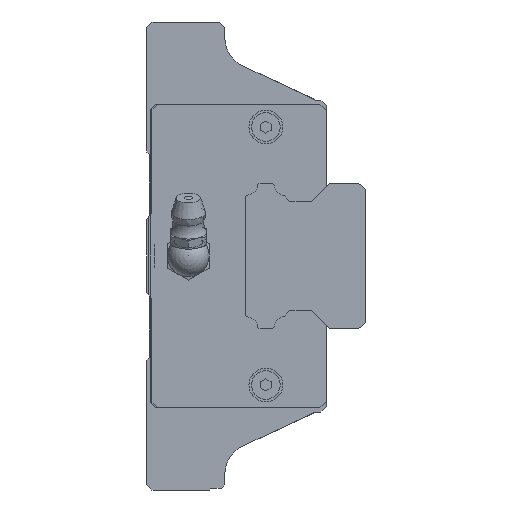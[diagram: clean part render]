
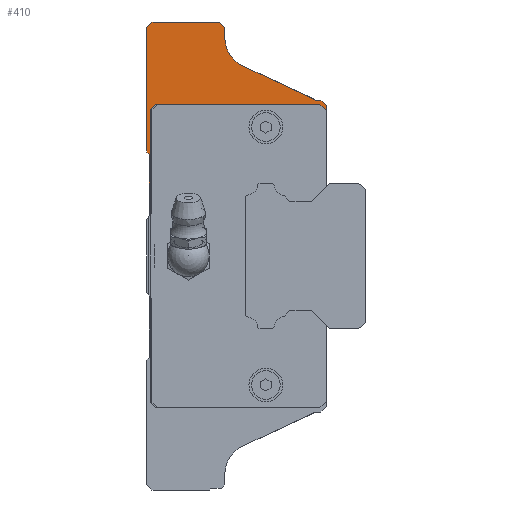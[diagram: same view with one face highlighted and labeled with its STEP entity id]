
A CAD part, left-side view. The second image highlights one B-rep face of the part: STEP entity #410.
In plain terms, the highlighted planar face has unit normal (-1, 0, 0).
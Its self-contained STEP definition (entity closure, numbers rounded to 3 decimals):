
#410 = ADVANCED_FACE( '', ( #901 ), #902, .F. );
#901 = FACE_OUTER_BOUND( '', #1639, .T. );
#902 = PLANE( '', #1640 );
#1639 = EDGE_LOOP( '', ( #2942, #2943, #2944, #2945, #2946, #2947, #2948, #2949, #2950, #2951, #2952, #2953, #2954, #2955, #2956, #2957, #2958 ) );
#1640 = AXIS2_PLACEMENT_3D( '', #2959, #2960, #2961 );
#2942 = ORIENTED_EDGE( '', *, *, #4759, .T. );
#2943 = ORIENTED_EDGE( '', *, *, #4756, .T. );
#2944 = ORIENTED_EDGE( '', *, *, #4651, .F. );
#2945 = ORIENTED_EDGE( '', *, *, #4623, .F. );
#2946 = ORIENTED_EDGE( '', *, *, #4771, .F. );
#2947 = ORIENTED_EDGE( '', *, *, #4772, .F. );
#2948 = ORIENTED_EDGE( '', *, *, #4773, .T. );
#2949 = ORIENTED_EDGE( '', *, *, #4626, .F. );
#2950 = ORIENTED_EDGE( '', *, *, #4774, .F. );
#2951 = ORIENTED_EDGE( '', *, *, #4775, .F. );
#2952 = ORIENTED_EDGE( '', *, *, #4776, .F. );
#2953 = ORIENTED_EDGE( '', *, *, #4777, .F. );
#2954 = ORIENTED_EDGE( '', *, *, #4778, .F. );
#2955 = ORIENTED_EDGE( '', *, *, #4779, .F. );
#2956 = ORIENTED_EDGE( '', *, *, #4739, .T. );
#2957 = ORIENTED_EDGE( '', *, *, #4735, .T. );
#2958 = ORIENTED_EDGE( '', *, *, #4761, .T. );
#2959 = CARTESIAN_POINT( '', ( 0., 21., 41.983 ) );
#2960 = DIRECTION( '', ( 1., 0., 0. ) );
#2961 = DIRECTION( '', ( 0., 0., -1. ) );
#4623 = EDGE_CURVE( '', #5472, #5474, #5475, .T. );
#4626 = EDGE_CURVE( '', #5478, #5480, #5481, .T. );
#4651 = EDGE_CURVE( '', #5474, #5527, #5528, .T. );
#4735 = EDGE_CURVE( '', #5680, #5681, #5682, .T. );
#4739 = EDGE_CURVE( '', #5673, #5680, #5686, .T. );
#4756 = EDGE_CURVE( '', #5713, #5527, #5714, .T. );
#4759 = EDGE_CURVE( '', #5718, #5713, #5719, .T. );
#4761 = EDGE_CURVE( '', #5681, #5718, #5721, .T. );
#4771 = EDGE_CURVE( '', #5738, #5472, #5739, .T. );
#4772 = EDGE_CURVE( '', #5740, #5738, #5741, .T. );
#4773 = EDGE_CURVE( '', #5740, #5480, #5742, .T. );
#4774 = EDGE_CURVE( '', #5743, #5478, #5744, .T. );
#4775 = EDGE_CURVE( '', #5745, #5743, #5746, .T. );
#4776 = EDGE_CURVE( '', #5747, #5745, #5748, .T. );
#4777 = EDGE_CURVE( '', #5749, #5747, #5750, .T. );
#4778 = EDGE_CURVE( '', #5751, #5749, #5752, .T. );
#4779 = EDGE_CURVE( '', #5673, #5751, #5753, .T. );
#5472 = VERTEX_POINT( '', #6751 );
#5474 = VERTEX_POINT( '', #6754 );
#5475 = LINE( '', #6755, #6756 );
#5478 = VERTEX_POINT( '', #6760 );
#5480 = VERTEX_POINT( '', #6763 );
#5481 = LINE( '', #6764, #6765 );
#5527 = VERTEX_POINT( '', #6828 );
#5528 = LINE( '', #6829, #6830 );
#5673 = VERTEX_POINT( '', #7039 );
#5680 = VERTEX_POINT( '', #7050 );
#5681 = VERTEX_POINT( '', #7051 );
#5682 = LINE( '', #7052, #7053 );
#5686 = LINE( '', #7060, #7061 );
#5713 = VERTEX_POINT( '', #7102 );
#5714 = LINE( '', #7103, #7104 );
#5718 = VERTEX_POINT( '', #7109 );
#5719 = LINE( '', #7110, #7111 );
#5721 = LINE( '', #7114, #7115 );
#5738 = VERTEX_POINT( '', #7140 );
#5739 = LINE( '', #7141, #7142 );
#5740 = VERTEX_POINT( '', #7143 );
#5741 = LINE( '', #7144, #7145 );
#5742 = CIRCLE( '', #7146, 6. );
#5743 = VERTEX_POINT( '', #7147 );
#5744 = LINE( '', #7148, #7149 );
#5745 = VERTEX_POINT( '', #7150 );
#5746 = LINE( '', #7151, #7152 );
#5747 = VERTEX_POINT( '', #7153 );
#5748 = LINE( '', #7154, #7155 );
#5749 = VERTEX_POINT( '', #7156 );
#5750 = LINE( '', #7157, #7158 );
#5751 = VERTEX_POINT( '', #7159 );
#5752 = LINE( '', #7160, #7161 );
#5753 = LINE( '', #7162, #7163 );
#6751 = CARTESIAN_POINT( '', ( 0., 8.5, 30. ) );
#6754 = CARTESIAN_POINT( '', ( 0., 7.5, 29. ) );
#6755 = CARTESIAN_POINT( '', ( 0., 8.5, 30. ) );
#6756 = VECTOR( '', #8482, 1000. );
#6760 = CARTESIAN_POINT( '', ( 0., 27., 44. ) );
#6763 = CARTESIAN_POINT( '', ( 0., 27., 41.983 ) );
#6764 = CARTESIAN_POINT( '', ( 0., 27., 44. ) );
#6765 = VECTOR( '', #8485, 1000. );
#6828 = CARTESIAN_POINT( '', ( 0., 7.5, 27.95 ) );
#6829 = CARTESIAN_POINT( '', ( 0., 7.5, 29. ) );
#6830 = VECTOR( '', #8524, 1000. );
#7039 = CARTESIAN_POINT( '', ( 0., 41.5, 7.6 ) );
#7050 = CARTESIAN_POINT( '', ( 0., 41., 8.1 ) );
#7051 = CARTESIAN_POINT( '', ( 0., 41., 28.15 ) );
#7052 = CARTESIAN_POINT( '', ( 0., 41., 8.1 ) );
#7053 = VECTOR( '', #8638, 1000. );
#7060 = CARTESIAN_POINT( '', ( 0., 41.6, 7.5 ) );
#7061 = VECTOR( '', #8642, 1000. );
#7102 = CARTESIAN_POINT( '', ( 0., 8.7, 29.15 ) );
#7103 = CARTESIAN_POINT( '', ( 0., 8.7, 29.15 ) );
#7104 = VECTOR( '', #8663, 1000. );
#7109 = CARTESIAN_POINT( '', ( 0., 40., 29.15 ) );
#7110 = CARTESIAN_POINT( '', ( 0., 40., 29.15 ) );
#7111 = VECTOR( '', #8668, 1000. );
#7114 = CARTESIAN_POINT( '', ( 0., 41., 28.15 ) );
#7115 = VECTOR( '', #8670, 1000. );
#7140 = CARTESIAN_POINT( '', ( 0., 9.5, 30. ) );
#7141 = CARTESIAN_POINT( '', ( 0., 9.5, 30. ) );
#7142 = VECTOR( '', #8682, 1000. );
#7143 = CARTESIAN_POINT( '', ( 0., 23.536, 36.545 ) );
#7144 = CARTESIAN_POINT( '', ( 0., 23.536, 36.545 ) );
#7145 = VECTOR( '', #8683, 1000. );
#7146 = AXIS2_PLACEMENT_3D( '', #8684, #8685, #8686 );
#7147 = CARTESIAN_POINT( '', ( 0., 28., 45. ) );
#7148 = CARTESIAN_POINT( '', ( 0., 28., 45. ) );
#7149 = VECTOR( '', #8687, 1000. );
#7150 = CARTESIAN_POINT( '', ( 0., 41., 45. ) );
#7151 = CARTESIAN_POINT( '', ( 0., 41., 45. ) );
#7152 = VECTOR( '', #8688, 1000. );
#7153 = CARTESIAN_POINT( '', ( 0., 42., 44. ) );
#7154 = CARTESIAN_POINT( '', ( 0., 42., 44. ) );
#7155 = VECTOR( '', #8689, 1000. );
#7156 = CARTESIAN_POINT( '', ( 0., 42., 20. ) );
#7157 = CARTESIAN_POINT( '', ( 0., 42., 20. ) );
#7158 = VECTOR( '', #8690, 1000. );
#7159 = CARTESIAN_POINT( '', ( 0., 41.5, 19.5 ) );
#7160 = CARTESIAN_POINT( '', ( 0., 41.5, 19.5 ) );
#7161 = VECTOR( '', #8691, 1000. );
#7162 = CARTESIAN_POINT( '', ( 0., 41.5, 7.5 ) );
#7163 = VECTOR( '', #8692, 1000. );
#8482 = DIRECTION( '', ( 0., -0.707, -0.707 ) );
#8485 = DIRECTION( '', ( 0., 0., -1. ) );
#8524 = DIRECTION( '', ( 0., 0., -1. ) );
#8638 = DIRECTION( '', ( 0., 0., 1. ) );
#8642 = DIRECTION( '', ( 0., -0.707, 0.707 ) );
#8663 = DIRECTION( '', ( 0., -0.707, -0.707 ) );
#8668 = DIRECTION( '', ( 0., -1., 0. ) );
#8670 = DIRECTION( '', ( 0., -0.707, 0.707 ) );
#8682 = DIRECTION( '', ( 0., -1., 0. ) );
#8683 = DIRECTION( '', ( 0., -0.906, -0.423 ) );
#8684 = CARTESIAN_POINT( '', ( 0., 21., 41.983 ) );
#8685 = DIRECTION( '', ( 1., 0., 0. ) );
#8686 = DIRECTION( '', ( 0., 0., -1. ) );
#8687 = DIRECTION( '', ( 0., -0.707, -0.707 ) );
#8688 = DIRECTION( '', ( 0., -1., 0. ) );
#8689 = DIRECTION( '', ( 0., -0.707, 0.707 ) );
#8690 = DIRECTION( '', ( 0., 0., 1. ) );
#8691 = DIRECTION( '', ( 0., 0.707, 0.707 ) );
#8692 = DIRECTION( '', ( 0., 0., 1. ) );
